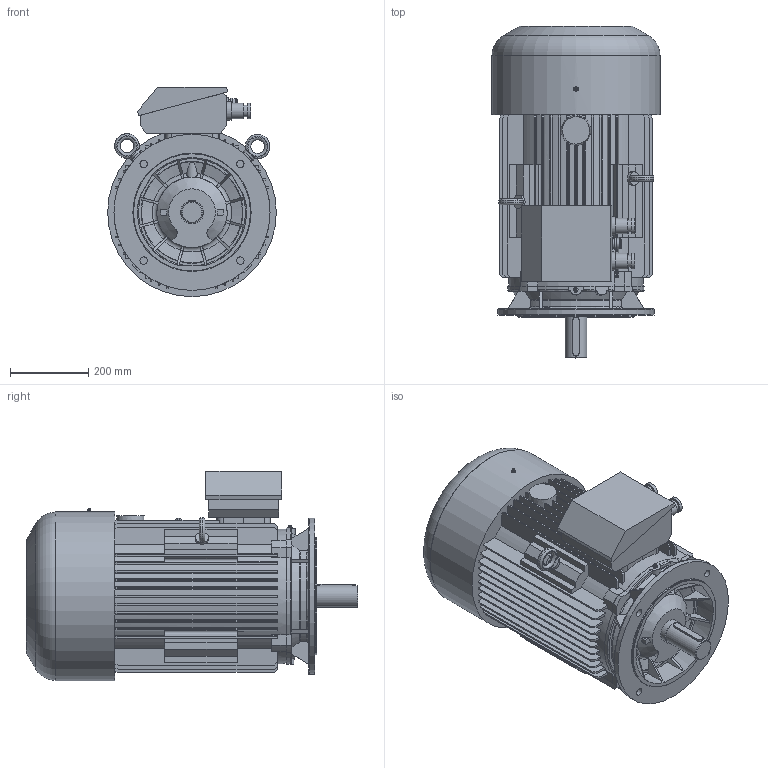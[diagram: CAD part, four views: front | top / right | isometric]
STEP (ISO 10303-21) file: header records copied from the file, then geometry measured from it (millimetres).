
FILE_DESCRIPTION(/* description */ ('Unknown'),/* implementation_level */ '2;1');
FILE_NAME(/* name */ '3SIEK200L2_8',/* time_stamp */ '2021-04-12T13:15:48+02:00',/* author */ ('Unknown'),/* organization */ ('Unknown'),/* preprocessor_version */ 'ST-DEVELOPER v16.7',/* originating_system */ 'DEX',/* authorisation */ $);
FILE_SCHEMA (('AUTOMOTIVE_DESIGN {1 0 10303 214 3 1 1}'));
Length unit declared in the file: millimetre
Products named in the file (1): 2SIEK 200 silnik
Bounding box: 432.03 x 850 x 536.02 mm (x, y, z)
Volume: 87146093.3 mm3; surface area: 2588042.6 mm2
Topology: 2 solids, 4 shells, 810 faces, 2279 edges, 1510 vertices
Faces by surface type: plane 569, cylinder 129, torus 82, cone 30
Full cylindrical faces by diameter (mm): 1.6 x2, 4.167 x1, 5 x2, 5.359 x1, 16.891 x1, 19 x4, 24 x1, 26.969 x1, 30 x4, 30.249 x1, 31 x1, 35 x4, 40 x4, 47 x2, 55 x1, 59.498 x1, 178 x1, 180 x1, 299.988 x1, 399.988 x1, 432.033 x1
Entity records: 32075 total; most frequent: CARTESIAN_POINT 5876, ORIENTED_EDGE 4402, DIRECTION 4030, EDGE_CURVE 2201, VERTEX_POINT 1493, LINE 1390, VECTOR 1390, AXIS2_PLACEMENT_3D 1320
